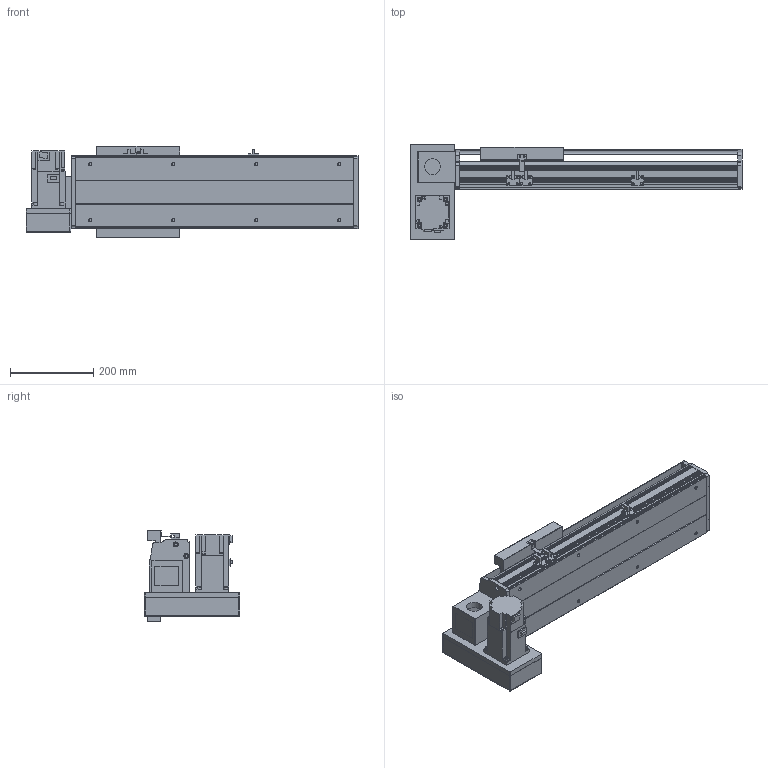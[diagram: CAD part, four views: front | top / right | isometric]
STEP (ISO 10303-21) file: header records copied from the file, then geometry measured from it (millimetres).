
FILE_DESCRIPTION(/* description */ ('STEP AP214'),/* implementation_level */ '2;1');
FILE_NAME(/* name */ 'PBS200-P40-S300-LD-T75-C1-N(0)',/* time_stamp */ '2022-06-11T08:43:17+02:00',/* author */ ('License CC BY-ND 4.0'),/* organization */ ('CADENAS'),/* preprocessor_version */ 'ST-DEVELOPER v18.102',/* originating_system */ 'PARTsolutions',/* authorisation */ ' ');
FILE_SCHEMA (('AUTOMOTIVE_DESIGN {1 0 10303 214 3 1 1}'));
Length unit declared in the file: millimetre
Products named in the file (7): PBS200-P40-S300-LD-T75-C1-N(0); PBS200_sensor; PBS200_plant; PBS200_sliser; T75-p1; PBS200T-LD_motors; PBS200-S300()_body
Assembly tree (8 placements, depth 2):
  PBS200-P40-S300-LD-T75-C1-N(0)
    PBS200_sensor  x3
    PBS200_plant
    PBS200_sliser
    T75-p1
    PBS200T-LD_motors
    PBS200-S300()_body
Bounding box: 800 x 230 x 221 mm (x, y, z)
Volume: 6866564.1 mm3; surface area: 1130156.7 mm2
Topology: 8 solids, 8 shells, 896 faces, 2334 edges, 1524 vertices
Faces by surface type: plane 566, cylinder 290, cone 40
Full cylindrical faces by diameter (mm): 2.459 x6, 3.242 x4, 4.5 x6, 4.917 x4, 5 x6, 6 x7, 6.6 x8, 6.647 x12, 8 x6, 10 x4, 12 x8, 38 x2, 40 x1, 70 x1
Entity records: 24101 total; most frequent: DIRECTION 4231, CARTESIAN_POINT 4120, ORIENTED_EDGE 3934, EDGE_CURVE 1967, AXIS2_PLACEMENT_3D 1459, VERTEX_POINT 1348, LINE 1313, VECTOR 1313
